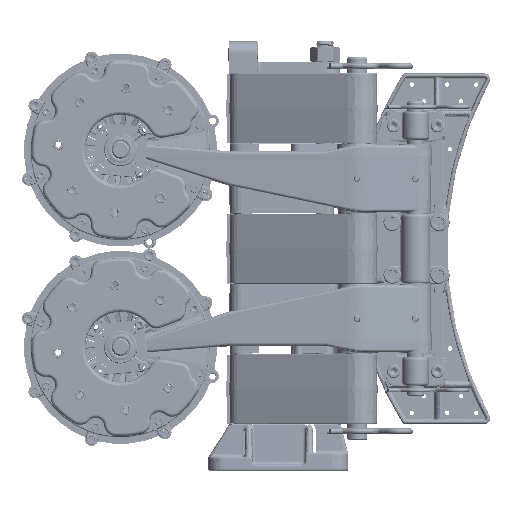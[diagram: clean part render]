
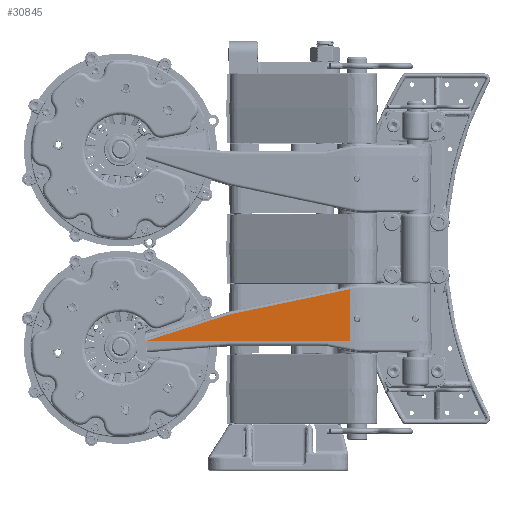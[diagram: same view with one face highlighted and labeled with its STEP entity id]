
A CAD part, top view. The second image highlights one B-rep face of the part: STEP entity #30845.
In plain terms, the highlighted planar face has unit normal (-0.077, 0.018, 0.997).
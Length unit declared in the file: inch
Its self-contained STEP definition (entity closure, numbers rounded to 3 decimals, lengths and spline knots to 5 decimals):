
#18663 = EDGE_CURVE ( 'NONE', #248577, #269847, #263550, .T. ) ;
#30845 = ADVANCED_FACE ( 'NONE', ( #78960 ), #107780, .T. ) ;
#36596 = DIRECTION ( 'NONE',  ( -0.997, 0., -0.077 ) ) ;
#46450 =( BOUNDED_CURVE ( )  B_SPLINE_CURVE ( 3, ( #268537, #218944, #50049, #292672 ),
 .UNSPECIFIED., .F., .F. ) 
 B_SPLINE_CURVE_WITH_KNOTS ( ( 4, 4 ),
 ( 5.15188, 5.25303 ),
 .UNSPECIFIED. ) 
 CURVE ( )  GEOMETRIC_REPRESENTATION_ITEM ( )  RATIONAL_B_SPLINE_CURVE ( ( 1., 0.999, 0.999, 1. ) ) 
 REPRESENTATION_ITEM ( '' )  );
#46723 = DIRECTION ( 'NONE',  ( -0.951, -0.302, -0.069 ) ) ;
#48591 = CARTESIAN_POINT ( 'NONE',  ( -5.21233, -2.80962, 4.25986 ) ) ;
#50049 = CARTESIAN_POINT ( 'NONE',  ( -5.30256, -2.8309, 4.25322 ) ) ;
#60249 = CARTESIAN_POINT ( 'NONE',  ( 0.10733, -3.955, 4.69316 ) ) ;
#63373 = EDGE_LOOP ( 'NONE', ( #146225, #115573, #232634, #140357, #294940 ) ) ;
#78829 = CARTESIAN_POINT ( 'NONE',  ( -8.84294, -3.955, 3.99787 ) ) ;
#78960 = FACE_OUTER_BOUND ( 'NONE', #63373, .T. ) ;
#84593 = DIRECTION ( 'NONE',  ( 0.997, 0., 0.077 ) ) ;
#90766 = VECTOR ( 'NONE', #142552, 39.37008 ) ;
#94205 = CARTESIAN_POINT ( 'NONE',  ( -0.70523, -1.37121, 4.5848 ) ) ;
#98378 = LINE ( 'NONE', #262966, #90766 ) ;
#103092 = LINE ( 'NONE', #249257, #288093 ) ;
#107780 = PLANE ( 'NONE',  #226207 ) ;
#115573 = ORIENTED_EDGE ( 'NONE', *, *, #227117, .T. ) ;
#127456 = VECTOR ( 'NONE', #36596, 39.37008 ) ;
#132630 = EDGE_CURVE ( 'NONE', #293468, #133984, #46450, .T. ) ;
#133984 = VERTEX_POINT ( 'NONE', #202093 ) ;
#140357 = ORIENTED_EDGE ( 'NONE', *, *, #275226, .T. ) ;
#142552 = DIRECTION ( 'NONE',  ( 0.001, 1., -0.017 ) ) ;
#146225 = ORIENTED_EDGE ( 'NONE', *, *, #132630, .T. ) ;
#164569 = LINE ( 'NONE', #94205, #221372 ) ;
#181110 = CARTESIAN_POINT ( 'NONE',  ( 0.10733, -3.955, 4.69316 ) ) ;
#202093 = CARTESIAN_POINT ( 'NONE',  ( -5.34676, -2.84493, 4.25003 ) ) ;
#218944 = CARTESIAN_POINT ( 'NONE',  ( -5.25772, -2.81912, 4.2565 ) ) ;
#220584 = VERTEX_POINT ( 'NONE', #282057 ) ;
#221372 = VECTOR ( 'NONE', #46723, 39.37008 ) ;
#226207 = AXIS2_PLACEMENT_3D ( 'NONE', #60249, #229136, #84593 ) ;
#227117 = EDGE_CURVE ( 'NONE', #133984, #269847, #164569, .T. ) ;
#229136 = DIRECTION ( 'NONE',  ( -0.077, 0.017, 0.997 ) ) ;
#232634 = ORIENTED_EDGE ( 'NONE', *, *, #18663, .F. ) ;
#246917 = EDGE_CURVE ( 'NONE', #220584, #293468, #103092, .T. ) ;
#248577 = VERTEX_POINT ( 'NONE', #269328 ) ;
#249257 = CARTESIAN_POINT ( 'NONE',  ( -0.34026, -1.79018, 4.62049 ) ) ;
#262966 = CARTESIAN_POINT ( 'NONE',  ( -0.12702, -3.955, 4.67496 ) ) ;
#263550 = LINE ( 'NONE', #181110, #127456 ) ;
#268537 = CARTESIAN_POINT ( 'NONE',  ( -5.21233, -2.80962, 4.25986 ) ) ;
#269328 = CARTESIAN_POINT ( 'NONE',  ( -0.12702, -3.955, 4.67496 ) ) ;
#269847 = VERTEX_POINT ( 'NONE', #78829 ) ;
#273564 = DIRECTION ( 'NONE',  ( -0.976, -0.204, -0.072 ) ) ;
#275226 = EDGE_CURVE ( 'NONE', #248577, #220584, #98378, .T. ) ;
#282057 = CARTESIAN_POINT ( 'NONE',  ( -0.12403, -1.74494, 4.6365 ) ) ;
#288093 = VECTOR ( 'NONE', #273564, 39.37008 ) ;
#292672 = CARTESIAN_POINT ( 'NONE',  ( -5.34676, -2.84493, 4.25003 ) ) ;
#293468 = VERTEX_POINT ( 'NONE', #48591 ) ;
#294940 = ORIENTED_EDGE ( 'NONE', *, *, #246917, .T. ) ;
